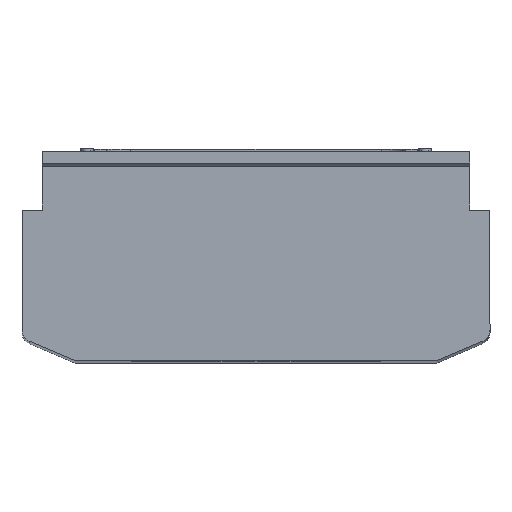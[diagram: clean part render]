
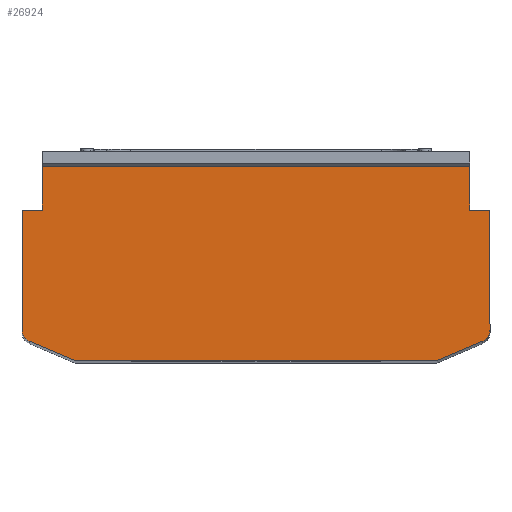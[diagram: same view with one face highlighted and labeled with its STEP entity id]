
A CAD part, top view. The second image highlights one B-rep face of the part: STEP entity #26924.
In plain terms, the highlighted planar face has unit normal (0, 0, 1).
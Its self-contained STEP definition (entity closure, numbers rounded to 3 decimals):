
#202 = ORIENTED_EDGE ( 'NONE', *, *, #18804, .T. ) ;
#558 = DIRECTION ( 'NONE',  ( -1., 0., 0. ) ) ;
#967 = CARTESIAN_POINT ( 'NONE',  ( 0., 201.163, 0. ) ) ;
#1002 = CARTESIAN_POINT ( 'NONE',  ( 242.5, 155.863, 0. ) ) ;
#1499 = DIRECTION ( 'NONE',  ( 1., 0., 0. ) ) ;
#1620 = EDGE_CURVE ( 'NONE', #27696, #9510, #23965, .T. ) ;
#1773 = EDGE_CURVE ( 'NONE', #15956, #25203, #5176, .T. ) ;
#2068 = ORIENTED_EDGE ( 'NONE', *, *, #6061, .T. ) ;
#2131 = CARTESIAN_POINT ( 'NONE',  ( 221.673, 201.163, 0. ) ) ;
#2134 = ORIENTED_EDGE ( 'NONE', *, *, #22079, .F. ) ;
#2242 = CIRCLE ( 'NONE', #6359, 12.5 ) ;
#2297 = DIRECTION ( 'NONE',  ( 1., 0., 0. ) ) ;
#3020 = DIRECTION ( 'NONE',  ( 0., 0., -1. ) ) ;
#3176 = DIRECTION ( 'NONE',  ( 1., 0., 0. ) ) ;
#3317 = DIRECTION ( 'NONE',  ( 0., -1., 0. ) ) ;
#3742 = CARTESIAN_POINT ( 'NONE',  ( -242.5, 215., 0. ) ) ;
#3919 = CARTESIAN_POINT ( 'NONE',  ( -221.673, 155.863, 0. ) ) ;
#4242 = CARTESIAN_POINT ( 'NONE',  ( -240.5, 215., 0. ) ) ;
#4776 = DIRECTION ( 'NONE',  ( 0., 0., -1. ) ) ;
#4844 = CARTESIAN_POINT ( 'NONE',  ( -234.884, 20.113, 0. ) ) ;
#4880 = DIRECTION ( 'NONE',  ( 0., 0., 1. ) ) ;
#4954 = VERTEX_POINT ( 'NONE', #9822 ) ;
#5071 = CARTESIAN_POINT ( 'NONE',  ( -234.884, 20.113, 0. ) ) ;
#5176 = LINE ( 'NONE', #3742, #24223 ) ;
#5706 = VECTOR ( 'NONE', #10154, 1000. ) ;
#5844 = LINE ( 'NONE', #12242, #6025 ) ;
#6025 = VECTOR ( 'NONE', #7966, 1000. ) ;
#6061 = EDGE_CURVE ( 'NONE', #28000, #4954, #25827, .T. ) ;
#6359 = AXIS2_PLACEMENT_3D ( 'NONE', #19547, #4776, #13031 ) ;
#6519 = FACE_OUTER_BOUND ( 'NONE', #21652, .T. ) ;
#7582 = VERTEX_POINT ( 'NONE', #8771 ) ;
#7966 = DIRECTION ( 'NONE',  ( -0.921, -0.391, 0. ) ) ;
#7971 = ORIENTED_EDGE ( 'NONE', *, *, #23282, .T. ) ;
#8198 = ORIENTED_EDGE ( 'NONE', *, *, #1620, .F. ) ;
#8207 = CARTESIAN_POINT ( 'NONE',  ( 187.093, 0., 0. ) ) ;
#8262 = CARTESIAN_POINT ( 'NONE',  ( 221.673, 155.863, 0. ) ) ;
#8629 = DIRECTION ( 'NONE',  ( 0., 0., 1. ) ) ;
#8771 = CARTESIAN_POINT ( 'NONE',  ( 234.884, 20.113, 0. ) ) ;
#9510 = VERTEX_POINT ( 'NONE', #12981 ) ;
#9586 = CARTESIAN_POINT ( 'NONE',  ( 242.5, 215., 0. ) ) ;
#9802 = VECTOR ( 'NONE', #558, 1000. ) ;
#9822 = CARTESIAN_POINT ( 'NONE',  ( -187.093, 0., 0. ) ) ;
#9888 = ORIENTED_EDGE ( 'NONE', *, *, #12754, .F. ) ;
#10154 = DIRECTION ( 'NONE',  ( 1., 0., 0. ) ) ;
#10173 = ORIENTED_EDGE ( 'NONE', *, *, #17386, .T. ) ;
#11236 = VECTOR ( 'NONE', #20442, 1000. ) ;
#11890 = AXIS2_PLACEMENT_3D ( 'NONE', #26641, #3020, #26906 ) ;
#12242 = CARTESIAN_POINT ( 'NONE',  ( 234.884, 20.113, 0. ) ) ;
#12290 = CARTESIAN_POINT ( 'NONE',  ( -242.5, 155.863, 0. ) ) ;
#12754 = EDGE_CURVE ( 'NONE', #7582, #15038, #5844, .T. ) ;
#12981 = CARTESIAN_POINT ( 'NONE',  ( -221.673, 201.163, 0. ) ) ;
#13031 = DIRECTION ( 'NONE',  ( -1., 0., 0. ) ) ;
#13489 = CARTESIAN_POINT ( 'NONE',  ( 221.673, 155.863, 0. ) ) ;
#13513 = LINE ( 'NONE', #4844, #11236 ) ;
#13535 = VECTOR ( 'NONE', #17093, 1000. ) ;
#13993 = LINE ( 'NONE', #12290, #17920 ) ;
#14160 = ORIENTED_EDGE ( 'NONE', *, *, #16078, .F. ) ;
#14586 = ORIENTED_EDGE ( 'NONE', *, *, #26719, .T. ) ;
#15017 = VERTEX_POINT ( 'NONE', #18940 ) ;
#15036 = ORIENTED_EDGE ( 'NONE', *, *, #1773, .T. ) ;
#15038 = VERTEX_POINT ( 'NONE', #25764 ) ;
#15044 = AXIS2_PLACEMENT_3D ( 'NONE', #27967, #8629, #1499 ) ;
#15494 = ORIENTED_EDGE ( 'NONE', *, *, #27508, .F. ) ;
#15769 = DIRECTION ( 'NONE',  ( 0., 1., 0. ) ) ;
#15956 = VERTEX_POINT ( 'NONE', #26517 ) ;
#16078 = EDGE_CURVE ( 'NONE', #21346, #7582, #2242, .T. ) ;
#17093 = DIRECTION ( 'NONE',  ( 1., 0., 0. ) ) ;
#17160 = AXIS2_PLACEMENT_3D ( 'NONE', #4242, #17462, #26275 ) ;
#17310 = VECTOR ( 'NONE', #15769, 1000. ) ;
#17386 = EDGE_CURVE ( 'NONE', #15017, #18116, #24696, .T. ) ;
#17462 = DIRECTION ( 'NONE',  ( 0., 0., 1. ) ) ;
#17700 = LINE ( 'NONE', #9586, #23519 ) ;
#17920 = VECTOR ( 'NONE', #3176, 1000. ) ;
#18116 = VERTEX_POINT ( 'NONE', #2131 ) ;
#18804 = EDGE_CURVE ( 'NONE', #25203, #19181, #23719, .T. ) ;
#18831 = VERTEX_POINT ( 'NONE', #8207 ) ;
#18940 = CARTESIAN_POINT ( 'NONE',  ( 221.673, 155.863, 0. ) ) ;
#19181 = VERTEX_POINT ( 'NONE', #5071 ) ;
#19297 = PLANE ( 'NONE',  #17160 ) ;
#19490 = EDGE_CURVE ( 'NONE', #15038, #18831, #20040, .T. ) ;
#19547 = CARTESIAN_POINT ( 'NONE',  ( 230., 31.62, 0. ) ) ;
#19577 = CARTESIAN_POINT ( 'NONE',  ( -242.5, 31.62, 0. ) ) ;
#19792 = CARTESIAN_POINT ( 'NONE',  ( -187.093, 2., 0. ) ) ;
#19935 = AXIS2_PLACEMENT_3D ( 'NONE', #19792, #4880, #2297 ) ;
#20040 = CIRCLE ( 'NONE', #11890, 2. ) ;
#20059 = LINE ( 'NONE', #967, #9802 ) ;
#20442 = DIRECTION ( 'NONE',  ( 0.921, -0.391, 0. ) ) ;
#20772 = VERTEX_POINT ( 'NONE', #1002 ) ;
#20799 = CARTESIAN_POINT ( 'NONE',  ( -187.093, 0., 0. ) ) ;
#20844 = ORIENTED_EDGE ( 'NONE', *, *, #27547, .F. ) ;
#21190 = LINE ( 'NONE', #8262, #13535 ) ;
#21346 = VERTEX_POINT ( 'NONE', #23177 ) ;
#21652 = EDGE_LOOP ( 'NONE', ( #10173, #7971, #8198, #2134, #15036, #202, #14586, #2068, #23751, #22546, #9888, #14160, #15494, #20844 ) ) ;
#21750 = CARTESIAN_POINT ( 'NONE',  ( -221.673, 155.863, 0. ) ) ;
#22079 = EDGE_CURVE ( 'NONE', #15956, #27696, #13993, .T. ) ;
#22546 = ORIENTED_EDGE ( 'NONE', *, *, #19490, .F. ) ;
#23177 = CARTESIAN_POINT ( 'NONE',  ( 242.5, 31.62, 0. ) ) ;
#23282 = EDGE_CURVE ( 'NONE', #18116, #9510, #20059, .T. ) ;
#23519 = VECTOR ( 'NONE', #26519, 1000. ) ;
#23719 = CIRCLE ( 'NONE', #15044, 12.5 ) ;
#23751 = ORIENTED_EDGE ( 'NONE', *, *, #24738, .T. ) ;
#23965 = LINE ( 'NONE', #3919, #26049 ) ;
#24104 = DIRECTION ( 'NONE',  ( 0., 1., 0. ) ) ;
#24223 = VECTOR ( 'NONE', #3317, 1000. ) ;
#24696 = LINE ( 'NONE', #13489, #17310 ) ;
#24738 = EDGE_CURVE ( 'NONE', #4954, #18831, #25074, .T. ) ;
#25074 = LINE ( 'NONE', #20799, #5706 ) ;
#25203 = VERTEX_POINT ( 'NONE', #19577 ) ;
#25764 = CARTESIAN_POINT ( 'NONE',  ( 187.875, 0.159, 0. ) ) ;
#25827 = CIRCLE ( 'NONE', #19935, 2. ) ;
#26049 = VECTOR ( 'NONE', #24104, 1000. ) ;
#26275 = DIRECTION ( 'NONE',  ( 1., 0., 0. ) ) ;
#26517 = CARTESIAN_POINT ( 'NONE',  ( -242.5, 155.863, 0. ) ) ;
#26519 = DIRECTION ( 'NONE',  ( 0., -1., 0. ) ) ;
#26641 = CARTESIAN_POINT ( 'NONE',  ( 187.093, 2., 0. ) ) ;
#26719 = EDGE_CURVE ( 'NONE', #19181, #28000, #13513, .T. ) ;
#26906 = DIRECTION ( 'NONE',  ( -1., 0., 0. ) ) ;
#26924 = ADVANCED_FACE ( 'NONE', ( #6519 ), #19297, .T. ) ;
#27508 = EDGE_CURVE ( 'NONE', #20772, #21346, #17700, .T. ) ;
#27547 = EDGE_CURVE ( 'NONE', #15017, #20772, #21190, .T. ) ;
#27564 = CARTESIAN_POINT ( 'NONE',  ( -187.875, 0.159, 0. ) ) ;
#27696 = VERTEX_POINT ( 'NONE', #21750 ) ;
#27967 = CARTESIAN_POINT ( 'NONE',  ( -230., 31.62, 0. ) ) ;
#28000 = VERTEX_POINT ( 'NONE', #27564 ) ;
